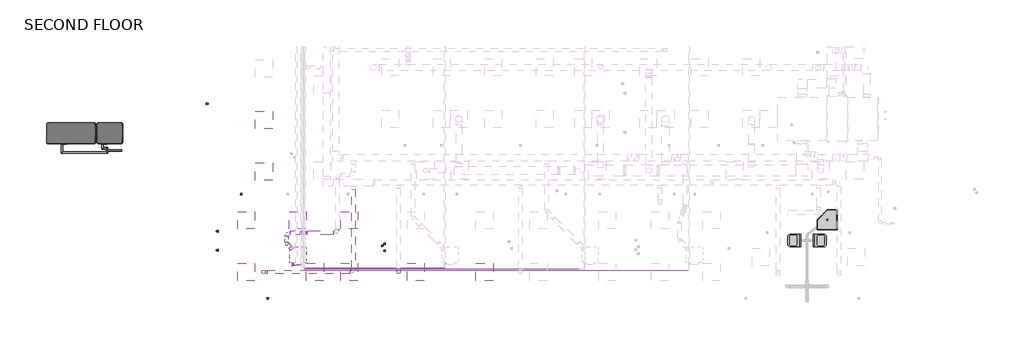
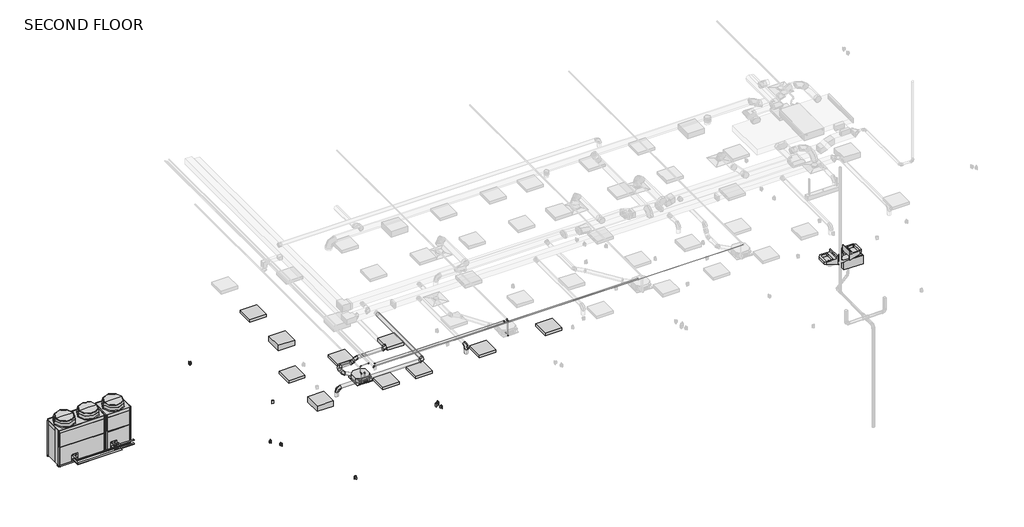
# One storey, part 1 of 12: 16 pipe fittings, 15 pipe segments, 10 light fixtures, 9 duct segments, 8 duct fittings, 8 proxies, 3 flow terminals, 2 electric appliances.
"""IFC4 building model written with IfcOpenShell, lengths in millimetres."""

from ifc_helpers import new_model, si_unit, point, frame, frame_2d, origin, place, context, project, spatial, circle_curve, trimmed, segment, composite_curve, outline, extrude, transform, mapped, element, save
from components import mechanical_equipment_2d84379e, mechanical_equipment_f1262ded, mechanical_equipment_7c6ddfd4, mechanical_equipment_79fc2163, duplex_receptacle_countertop_10251bba, round_elbow_1_d_c80420c1, round_elbow_1_d_e3dc691b, telephone_outlet_data_plain_18c24199, flow_terminal_3ae34a69, flow_terminal_3fd0b982, troffer_corner_insert_2x2_3_lamp_emergency_29e3a813, troffer_corner_insert_2x2_3lamp_e67c7f8f, elbow_generic_standard_c06ac706, elbow_generic_standard_a088f956

model = new_model("IFC4")

# Units and contexts
model_context = context("Model", 3, world=origin())
ifc_project = project(units=[si_unit("LENGTHUNIT", "METRE", prefix="MILLI")], contexts=[model_context])

# Site, building, storey
site = spatial("IfcSite", under=ifc_project)
building = spatial("IfcBuilding", under=site)
storey = spatial("IfcBuildingStorey", under=building, Name="SECOND FLOOR", Elevation=34544.0)

# Proxies
placement = place(None, origin())
mechanical_equipment_shape = mechanical_equipment_2d84379e(model_context)
element("IfcBuildingElementProxy", 1, Name="PLFY-P-NCMU-E_4-way_24x24 : PLFY-P12NCMU-E", ObjectType="PLFY-P-NCMU-E_4-way_24x24 : PLFY-P12NCMU-E", at=placement, inside=storey, context=model_context, shape_type="MappedRepresentation", body=[
    mapped(mechanical_equipment_shape, transform((-7369.1729607, -5508.0657082, 37287.2), x_axis=(-1.0, 0.0, 0.0), y_axis=(0.0, 1.0, 0.0), z_axis=(0.0, 0.0, -1.0))),
])
mechanical_equipment_2_shape = mechanical_equipment_f1262ded(model_context)
mechanical_equipment_3_shape = mechanical_equipment_7c6ddfd4(model_context)
mechanical_equipment_4_shape = mechanical_equipment_79fc2163(model_context)
element("IfcBuildingElementProxy", 2, Name="PURY-P168-288_YSJMU_Heat_Recovery_460V : PURY-P192YSJMU-A(-BS)_460V", ObjectType="PURY-P168-288_YSJMU_Heat_Recovery_460V : PURY-P192YSJMU-A(-BS)_460V", at=placement, inside=storey, context=model_context, shape_type="MappedRepresentation", body=[
    mapped(mechanical_equipment_2_shape, transform((-15542.2584607, -1258.9304995, 34544.0), x_axis=(1.0, 0.0, 0.0), y_axis=(0.0, 1.0, 0.0), z_axis=(0.0, 0.0, 1.0))),
    mapped(mechanical_equipment_3_shape, transform((-15542.2584607, -1258.9304995, 34544.0), x_axis=(1.0, 0.0, 0.0), y_axis=(0.0, 1.0, 0.0), z_axis=(0.0, 0.0, 1.0))),
    mapped(mechanical_equipment_4_shape, transform((-15542.2584607, -1258.9304995, 34544.0), x_axis=(1.0, 0.0, 0.0), y_axis=(0.0, 1.0, 0.0), z_axis=(0.0, 0.0, 1.0))),
])
duplex_receptacle_countertop_shape = duplex_receptacle_countertop_10251bba(model_context)
element("IfcBuildingElementProxy", 3, Name="Duplex Receptacle : Countertop", ObjectType="Duplex Receptacle : Countertop", at=placement, inside=storey, context=model_context, shape_type="MappedRepresentation", body=[
    mapped(duplex_receptacle_countertop_shape, transform((-9384.920368, -3437.5304995, 35763.2), x_axis=(1.0, 0.0, 0.0), y_axis=(0.0, 0.0, 1.0), z_axis=(0.0, -1.0, 0.0))),
])
element("IfcBuildingElementProxy", 4, Name="Duplex Receptacle : Exterior", ObjectType="Duplex Receptacle : Exterior", at=placement, inside=storey, context=model_context, shape_type="MappedRepresentation", body=[
    mapped(duplex_receptacle_countertop_shape, transform((-10616.2454607, -218.095498, 35763.2), x_axis=(0.0, -1.0, 0.0), y_axis=(0.0, 0.0, 1.0), z_axis=(-1.0, 0.0, 0.0))),
])
element("IfcBuildingElementProxy", 5, Name="Duplex Receptacle : Standard", ObjectType="Duplex Receptacle : Standard", at=placement, inside=storey, context=model_context, shape_type="MappedRepresentation", body=[
    mapped(duplex_receptacle_countertop_shape, transform((-10209.8454607, -4733.9575516, 35296.4), x_axis=(0.0, 1.0, 0.0), y_axis=(0.0, 0.0, 1.0), z_axis=(1.0, 0.0, 0.0))),
])
element("IfcBuildingElementProxy", 6, Name="Duplex Receptacle : Standard", ObjectType="Duplex Receptacle : Standard", at=placement, inside=storey, context=model_context, shape_type="MappedRepresentation", body=[
    mapped(duplex_receptacle_countertop_shape, transform((-4398.3829607, -5253.5079794, 35001.2), x_axis=(0.0, -1.0, 0.0), y_axis=(0.0, 0.0, 1.0), z_axis=(-1.0, 0.0, 0.0))),
])
element("IfcBuildingElementProxy", 7, Name="Duplex Receptacle : Standard", ObjectType="Duplex Receptacle : Standard", at=placement, inside=storey, context=model_context, shape_type="MappedRepresentation", body=[
    mapped(duplex_receptacle_countertop_shape, transform((-8437.8475796, -7095.1304995, 34696.4), x_axis=(-1.0, 0.0, 0.0), y_axis=(0.0, 0.0, 1.0), z_axis=(0.0, 1.0, 0.0))),
])
element("IfcBuildingElementProxy", 8, Name="Duplex Receptacle : Standard", ObjectType="Duplex Receptacle : Standard", at=placement, inside=storey, context=model_context, shape_type="MappedRepresentation", body=[
    mapped(duplex_receptacle_countertop_shape, transform((-4274.5579607, -5421.1008591, 35001.2), x_axis=(0.0, 1.0, 0.0), y_axis=(0.0, 0.0, 1.0), z_axis=(1.0, 0.0, 0.0))),
])

# Duct fittings
round_elbow_1_d_shape = round_elbow_1_d_c80420c1(model_context)
element("IfcDuctFitting", 9, ObjectType="Round Elbow : 1 D", at=placement, inside=storey, context=model_context, shape_type="MappedRepresentation", body=[
    mapped(round_elbow_1_d_shape, transform((-8593.9292107, -6180.7304995, 37693.6), x_axis=(0.0, 0.0, 1.0), y_axis=(1.0, 0.0, 0.0), z_axis=(0.0, 1.0, 0.0))),
])
element("IfcDuctFitting", 10, ObjectType="Round Elbow : 1 D", at=placement, inside=storey, context=model_context, shape_type="MappedRepresentation", body=[
    mapped(round_elbow_1_d_shape, transform((-5393.5292107, -6180.7304995, 37693.6), x_axis=(1.0, 0.0, 0.0), y_axis=(0.0, 1.0, 0.0), z_axis=(0.0, 0.0, 1.0))),
])
element("IfcDuctFitting", 11, ObjectType="Round Elbow : 1 D", at=placement, inside=storey, context=model_context, shape_type="MappedRepresentation", body=[
    mapped(round_elbow_1_d_shape, transform((-3798.8854607, -6180.7304995, 37693.6), x_axis=(0.0, 0.0, 1.0), y_axis=(0.0, 1.0, 0.0), z_axis=(-1.0, 0.0, 0.0))),
])
element("IfcDuctFitting", 12, ObjectType="Round Elbow : 1 D", at=placement, inside=storey, context=model_context, shape_type="MappedRepresentation", body=[
    mapped(round_elbow_1_d_shape, transform((-7773.6349734, -4791.2247368, 37381.259375), x_axis=(-1.0, 0.0, 0.0), y_axis=(0.0, -1.0, 0.0), z_axis=(0.0, 0.0, 1.0))),
])
element("IfcDuctFitting", 13, ObjectType="Round Elbow : 1 D", at=placement, inside=storey, context=model_context, shape_type="MappedRepresentation", body=[
    mapped(round_elbow_1_d_shape, transform((-5970.2349734, -4791.2247368, 37515.8), x_axis=(1.0, 0.0, 0.0), y_axis=(0.0, 1.0, 0.0), z_axis=(0.0, 0.0, 1.0))),
])
round_elbow_1_d_2_shape = round_elbow_1_d_e3dc691b(model_context)
element("IfcDuctFitting", 14, ObjectType="Round Elbow : 1 D", at=placement, inside=storey, context=model_context, shape_type="MappedRepresentation", body=[
    mapped(round_elbow_1_d_2_shape, transform((-7773.6349734, -5172.2247368, 37381.2593782), x_axis=(0.0, -1.0, 0.0), y_axis=(0.9999999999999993, 0.0, 3.563833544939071e-08), z_axis=(-3.563833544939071e-08, 0.0, 0.9999999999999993))),
])
element("IfcDuctFitting", 15, ObjectType="Round Elbow : 1 D", at=placement, inside=storey, context=model_context, shape_type="MappedRepresentation", body=[
    mapped(round_elbow_1_d_2_shape, transform((-7236.4646609, -4791.2247368, 37381.259375), x_axis=(1.0, 0.0, 0.0), y_axis=(0.0, 0.0, 1.0), z_axis=(0.0, -1.0, 0.0))),
])
element("IfcDuctFitting", 16, ObjectType="Round Elbow : 1 D", at=placement, inside=storey, context=model_context, shape_type="MappedRepresentation", body=[
    mapped(round_elbow_1_d_2_shape, transform((-7101.9240359, -4791.2247368, 37515.8), x_axis=(0.7071067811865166, 0.0, 0.7071067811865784), y_axis=(0.7071067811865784, 0.0, -0.7071067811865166), z_axis=(0.0, 1.0, 0.0))),
])

# Duct segments
element("IfcDuctSegment", 17, ObjectType="Taps / Short Radius", at=placement, inside=storey, context=model_context, shape_type="SweptSolid", body=[
    extrude(outline(composite_curve([segment(trimmed(circle_curve(frame_2d((-6180.7304995, 37693.6)), 63.5), [point((-6244.2304995, 37693.6))], [point((-6180.7304995, 37757.1))], False, "CARTESIAN"), True, "CONTINUOUS"), segment(trimmed(circle_curve(frame_2d((-6180.7304995, 37693.6)), 63.5), [point((-6180.7304995, 37757.1))], [point((-6117.2304995, 37693.6))], False, "CARTESIAN"), True, "CONTINUOUS"), segment(trimmed(circle_curve(frame_2d((-6180.7304995, 37693.6)), 63.5), [point((-6117.2304995, 37693.6))], [point((-6180.7304995, 37630.1))], False, "CARTESIAN"), True, "CONTINUOUS"), segment(trimmed(circle_curve(frame_2d((-6180.7304995, 37693.6)), 63.5), [point((-6180.7304995, 37630.1))], [point((-6244.2304995, 37693.6))], False, "CARTESIAN"), True, "CONTINUOUS")], self_intersect=False)), frame((-8466.9292107, 0.0, 0.0), z_axis=(1.0, 0.0, 0.0), x_axis=(0.0, 1.0, 0.0)), (0.0, 0.0, 1.0), 2946.4),
])
element("IfcDuctSegment", 18, ObjectType="Taps / Short Radius", at=placement, inside=storey, context=model_context, shape_type="SweptSolid", body=[
    extrude(outline(composite_curve([segment(trimmed(circle_curve(frame_2d((-8593.9292107, -6180.7304995)), 63.5), [point((-8593.9292107, -6244.2304995))], [point((-8657.4292107, -6180.7304995))], False, "CARTESIAN"), True, "CONTINUOUS"), segment(trimmed(circle_curve(frame_2d((-8593.9292107, -6180.7304995)), 63.5), [point((-8657.4292107, -6180.7304995))], [point((-8593.9292107, -6117.2304995))], False, "CARTESIAN"), True, "CONTINUOUS"), segment(trimmed(circle_curve(frame_2d((-8593.9292107, -6180.7304995)), 63.5), [point((-8593.9292107, -6117.2304995))], [point((-8530.4292107, -6180.7304995))], False, "CARTESIAN"), True, "CONTINUOUS"), segment(trimmed(circle_curve(frame_2d((-8593.9292107, -6180.7304995)), 63.5), [point((-8530.4292107, -6180.7304995))], [point((-8593.9292107, -6244.2304995))], False, "CARTESIAN"), True, "CONTINUOUS")], self_intersect=False)), frame((0.0, 0.0, 37388.8), z_axis=(0.0, 0.0, 1.0), x_axis=(1.0, 0.0, 0.0)), (0.0, 0.0, 1.0), 177.8),
])
element("IfcDuctSegment", 19, ObjectType="Taps / Short Radius", at=placement, inside=storey, context=model_context, shape_type="SweptSolid", body=[
    extrude(outline(composite_curve([segment(trimmed(circle_curve(frame_2d((37693.6, -5393.5292107)), 63.5), [point((37693.6, -5457.0292107))], [point((37630.1, -5393.5292107))], False, "CARTESIAN"), True, "CONTINUOUS"), segment(trimmed(circle_curve(frame_2d((37693.6, -5393.5292107)), 63.5), [point((37630.1, -5393.5292107))], [point((37693.6, -5330.0292107))], False, "CARTESIAN"), True, "CONTINUOUS"), segment(trimmed(circle_curve(frame_2d((37693.6, -5393.5292107)), 63.5), [point((37693.6, -5330.0292107))], [point((37757.1, -5393.5292107))], False, "CARTESIAN"), True, "CONTINUOUS"), segment(trimmed(circle_curve(frame_2d((37693.6, -5393.5292107)), 63.5), [point((37757.1, -5393.5292107))], [point((37693.6, -5457.0292107))], False, "CARTESIAN"), True, "CONTINUOUS")], self_intersect=False)), frame((0.0, -6053.7304995, 0.0), z_axis=(0.0, 1.0, 0.0), x_axis=(0.0, 0.0, 1.0)), (0.0, 0.0, 1.0), 2814.8598327),
])
element("IfcDuctSegment", 20, ObjectType="Taps / Short Radius", at=placement, inside=storey, context=model_context, shape_type="SweptSolid", body=[
    extrude(outline(composite_curve([segment(trimmed(circle_curve(frame_2d((-3798.8854607, -6180.7304995)), 63.5), [point((-3735.3854607, -6180.7304995))], [point((-3798.8854607, -6244.2304995))], False, "CARTESIAN"), True, "CONTINUOUS"), segment(trimmed(circle_curve(frame_2d((-3798.8854607, -6180.7304995)), 63.5), [point((-3798.8854607, -6244.2304995))], [point((-3862.3854607, -6180.7304995))], False, "CARTESIAN"), True, "CONTINUOUS"), segment(trimmed(circle_curve(frame_2d((-3798.8854607, -6180.7304995)), 63.5), [point((-3862.3854607, -6180.7304995))], [point((-3798.8854607, -6117.2304995))], False, "CARTESIAN"), True, "CONTINUOUS"), segment(trimmed(circle_curve(frame_2d((-3798.8854607, -6180.7304995)), 63.5), [point((-3798.8854607, -6117.2304995))], [point((-3735.3854607, -6180.7304995))], False, "CARTESIAN"), True, "CONTINUOUS")], self_intersect=False)), frame((0.0, 0.0, 37388.8), z_axis=(0.0, 0.0, 1.0), x_axis=(1.0, 0.0, 0.0)), (0.0, 0.0, 1.0), 177.8),
])
element("IfcDuctSegment", 21, ObjectType="Taps / Short Radius", at=placement, inside=storey, context=model_context, shape_type="SweptSolid", body=[
    extrude(outline(composite_curve([segment(trimmed(circle_curve(frame_2d((0.0, 63.5)), 63.5), [point((63.5, 63.5))], [point((0.0, 0.0))], False, "CARTESIAN"), True, "CONTINUOUS"), segment(trimmed(circle_curve(frame_2d((0.0, 63.5)), 63.5), [point((0.0, 0.0))], [point((-63.5, 63.5))], False, "CARTESIAN"), True, "CONTINUOUS"), segment(trimmed(circle_curve(frame_2d((0.0, 63.5)), 63.5), [point((-63.5, 63.5))], [point((0.0, 127.0))], False, "CARTESIAN"), True, "CONTINUOUS"), segment(trimmed(circle_curve(frame_2d((0.0, 63.5)), 63.5), [point((0.0, 127.0))], [point((63.5, 63.5))], False, "CARTESIAN"), True, "CONTINUOUS")], self_intersect=False)), frame((-7576.0693388, -5369.7903714, 37444.7593852), z_axis=(-0.7071067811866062, 0.707106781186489, 0.0), x_axis=(0.707106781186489, 0.7071067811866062, 0.0)), (0.0, 0.0, 1.0), 226.7948776),
])
element("IfcDuctSegment", 22, ObjectType="Taps / Short Radius", at=placement, inside=storey, context=model_context, shape_type="SweptSolid", body=[
    extrude(outline(composite_curve([segment(trimmed(circle_curve(frame_2d((37381.2593782, -7773.6349734)), 63.5), [point((37381.2593782, -7710.1349734))], [point((37444.7593782, -7773.6349734))], False, "CARTESIAN"), True, "CONTINUOUS"), segment(trimmed(circle_curve(frame_2d((37381.2593782, -7773.6349734)), 63.5), [point((37444.7593782, -7773.6349734))], [point((37381.2593782, -7837.1349734))], False, "CARTESIAN"), True, "CONTINUOUS"), segment(trimmed(circle_curve(frame_2d((37381.2593782, -7773.6349734)), 63.5), [point((37381.2593782, -7837.1349734))], [point((37317.7593782, -7773.6349734))], False, "CARTESIAN"), True, "CONTINUOUS"), segment(trimmed(circle_curve(frame_2d((37381.2593782, -7773.6349734)), 63.5), [point((37317.7593782, -7773.6349734))], [point((37381.2593782, -7710.1349734))], False, "CARTESIAN"), True, "CONTINUOUS")], self_intersect=False)), frame((0.0, -5119.6196143, 0.0), z_axis=(0.0, 1.0, 0.0), x_axis=(0.0, 0.0, 1.0)), (0.0, 0.0, 1.0), 201.3948776),
])
element("IfcDuctSegment", 23, ObjectType="Taps / Short Radius", at=placement, inside=storey, context=model_context, shape_type="SweptSolid", body=[
    extrude(outline(composite_curve([segment(trimmed(circle_curve(frame_2d((-4791.2247368, 37381.259375)), 63.5), [point((-4854.7247368, 37381.259375))], [point((-4791.2247368, 37444.759375))], False, "CARTESIAN"), True, "CONTINUOUS"), segment(trimmed(circle_curve(frame_2d((-4791.2247368, 37381.259375)), 63.5), [point((-4791.2247368, 37444.759375))], [point((-4727.7247368, 37381.259375))], False, "CARTESIAN"), True, "CONTINUOUS"), segment(trimmed(circle_curve(frame_2d((-4791.2247368, 37381.259375)), 63.5), [point((-4727.7247368, 37381.259375))], [point((-4791.2247368, 37317.759375))], False, "CARTESIAN"), True, "CONTINUOUS"), segment(trimmed(circle_curve(frame_2d((-4791.2247368, 37381.259375)), 63.5), [point((-4791.2247368, 37317.759375))], [point((-4854.7247368, 37381.259375))], False, "CARTESIAN"), True, "CONTINUOUS")], self_intersect=False)), frame((-7646.6349734, 0.0, 0.0), z_axis=(1.0, 0.0, 0.0), x_axis=(0.0, 1.0, 0.0)), (0.0, 0.0, 1.0), 357.5651901),
])
element("IfcDuctSegment", 24, ObjectType="Taps / Short Radius", at=placement, inside=storey, context=model_context, shape_type="SweptSolid", body=[
    extrude(outline(composite_curve([segment(trimmed(circle_curve(frame_2d((-4791.2247368, 37515.8)), 63.5), [point((-4854.7247368, 37515.8))], [point((-4791.2247368, 37579.3))], False, "CARTESIAN"), True, "CONTINUOUS"), segment(trimmed(circle_curve(frame_2d((-4791.2247368, 37515.8)), 63.5), [point((-4791.2247368, 37579.3))], [point((-4727.7247368, 37515.8))], False, "CARTESIAN"), True, "CONTINUOUS"), segment(trimmed(circle_curve(frame_2d((-4791.2247368, 37515.8)), 63.5), [point((-4727.7247368, 37515.8))], [point((-4791.2247368, 37452.3))], False, "CARTESIAN"), True, "CONTINUOUS"), segment(trimmed(circle_curve(frame_2d((-4791.2247368, 37515.8)), 63.5), [point((-4791.2247368, 37452.3))], [point((-4854.7247368, 37515.8))], False, "CARTESIAN"), True, "CONTINUOUS")], self_intersect=False)), frame((-7049.3189135, 0.0, 0.0), z_axis=(1.0, 0.0, 0.0), x_axis=(0.0, 1.0, 0.0)), (0.0, 0.0, 1.0), 952.0839401),
])
element("IfcDuctSegment", 25, ObjectType="Taps / Short Radius", at=placement, inside=storey, context=model_context, shape_type="SweptSolid", body=[
    extrude(outline(composite_curve([segment(trimmed(circle_curve(frame_2d((0.0, 63.5)), 63.5), [point((0.0, 0.0))], [point((-63.5, 63.5))], False, "CARTESIAN"), True, "CONTINUOUS"), segment(trimmed(circle_curve(frame_2d((0.0, 63.5)), 63.5), [point((-63.5, 63.5))], [point((0.0, 127.0))], False, "CARTESIAN"), True, "CONTINUOUS"), segment(trimmed(circle_curve(frame_2d((0.0, 63.5)), 63.5), [point((0.0, 127.0))], [point((63.5, 63.5))], False, "CARTESIAN"), True, "CONTINUOUS"), segment(trimmed(circle_curve(frame_2d((0.0, 63.5)), 63.5), [point((63.5, 63.5))], [point((0.0, 0.0))], False, "CARTESIAN"), True, "CONTINUOUS")], self_intersect=False)), frame((-7199.2672221, -4854.7247368, 37418.4568138), z_axis=(0.7071067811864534, 0.0, 0.7071067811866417), x_axis=(0.7071067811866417, 0.0, -0.7071067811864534)), (0.0, 0.0, 1.0), 85.0589317),
])

# Electric appliances
telephone_outlet_data_plain_shape = telephone_outlet_data_plain_18c24199(model_context)
element("IfcElectricAppliance", 26, ObjectType="Telephone Outlet - Data : Plain", at=placement, inside=storey, context=model_context, shape_type="MappedRepresentation", body=[
    mapped(telephone_outlet_data_plain_shape, transform((-10209.8454607, -4531.9705124, 34743.95), x_axis=(0.0, 1.0, 0.0), y_axis=(0.0, 0.0, 1.0), z_axis=(1.0, 0.0, 0.0))),
])
element("IfcElectricAppliance", 27, ObjectType="Telephone Outlet - Data : Plain", at=placement, inside=storey, context=model_context, shape_type="MappedRepresentation", body=[
    mapped(telephone_outlet_data_plain_shape, transform((-4274.5579607, -4304.221706, 34143.95), x_axis=(0.0, 1.0, 0.0), y_axis=(0.0, 0.0, 1.0), z_axis=(1.0, 0.0, 0.0))),
])

# Flow terminals
flow_terminal_shape = flow_terminal_3ae34a69(model_context)
element("IfcFlowTerminal", 28, ObjectType="Lavatory_Commercial-Willoughby-ES-1015-HC : Lavatory_Commercial-Willoughby-ES-1015-HC", at=placement, inside=storey, context=model_context, shape_type="MappedRepresentation", body=[
    mapped(flow_terminal_shape, transform((10465.7545393, -5063.1304995, 35458.4), x_axis=(0.0, -1.0, 0.0), y_axis=(0.0, 0.0, 1.0), z_axis=(-1.0, 0.0, 0.0))),
])
element("IfcFlowTerminal", 29, ObjectType="Lavatory_Commercial-Willoughby-ES-1015-HC : Lavatory_Commercial-Willoughby-ES-1015-HC", at=placement, inside=storey, context=model_context, shape_type="MappedRepresentation", body=[
    mapped(flow_terminal_shape, transform((10919.7299299, -5063.1304995, 35458.4), x_axis=(0.0, 1.0, 0.0), y_axis=(0.0, 0.0, 1.0), z_axis=(1.0, 0.0, 0.0))),
])
flow_terminal_2_shape = flow_terminal_3fd0b982(model_context)
element("IfcFlowTerminal", 30, ObjectType="Sink - Mop : 28\"x28\"", at=placement, inside=storey, context=model_context, shape_type="MappedRepresentation", body=[
    mapped(flow_terminal_2_shape, transform((11761.1049299, -4685.3054995, 34544.0), x_axis=(-1.0, 0.0, 0.0), y_axis=(0.0, -1.0, 0.0), z_axis=(0.0, 0.0, 1.0))),
])

# Light fixtures
troffer_corner_insert_2x2_3_lamp_emergency_shape = troffer_corner_insert_2x2_3_lamp_emergency_29e3a813(model_context)
element("IfcLightFixture", 31, ObjectType="Troffer Corner Insert : 2x2 3 Lamp Emergency", at=placement, inside=storey, context=model_context, shape_type="MappedRepresentation", body=[
    mapped(troffer_corner_insert_2x2_3_lamp_emergency_shape, transform((-9203.5292107, -6180.7304995, 34848.8), x_axis=(1.0, 0.0, 0.0), y_axis=(0.0, 1.0, 0.0), z_axis=(0.0, 0.0, 1.0))),
])
element("IfcLightFixture", 32, ObjectType="Troffer Corner Insert : 2x2 3 Lamp Emergency", at=placement, inside=storey, context=model_context, shape_type="MappedRepresentation", body=[
    mapped(troffer_corner_insert_2x2_3_lamp_emergency_shape, transform((-8574.7204607, -2616.7929995, 34848.8), x_axis=(1.0, 0.0, 0.0), y_axis=(0.0, 1.0, 0.0), z_axis=(0.0, 0.0, 1.0))),
])
troffer_corner_insert_2x2_3lamp_shape = troffer_corner_insert_2x2_3lamp_e67c7f8f(model_context)
element("IfcLightFixture", 33, ObjectType="Troffer Corner Insert : 2x2 3Lamp", at=placement, inside=storey, context=model_context, shape_type="MappedRepresentation", body=[
    mapped(troffer_corner_insert_2x2_3lamp_shape, transform((-3189.2854607, -6180.7304995, 34848.8), x_axis=(1.0, 0.0, 0.0), y_axis=(0.0, 1.0, 0.0), z_axis=(0.0, 0.0, 1.0))),
])
element("IfcLightFixture", 34, ObjectType="Troffer Corner Insert : 2x2 3Lamp", at=placement, inside=storey, context=model_context, shape_type="MappedRepresentation", body=[
    mapped(troffer_corner_insert_2x2_3lamp_shape, transform((-750.8854607, -6180.7304995, 34848.8), x_axis=(1.0, 0.0, 0.0), y_axis=(0.0, 1.0, 0.0), z_axis=(0.0, 0.0, 1.0))),
])
element("IfcLightFixture", 35, ObjectType="Troffer Corner Insert : 2x2 3Lamp", at=placement, inside=storey, context=model_context, shape_type="MappedRepresentation", body=[
    mapped(troffer_corner_insert_2x2_3lamp_shape, transform((-9203.5292107, -4351.9304995, 34848.8), x_axis=(1.0, 0.0, 0.0), y_axis=(0.0, 1.0, 0.0), z_axis=(0.0, 0.0, 1.0))),
])
element("IfcLightFixture", 36, ObjectType="Troffer Corner Insert : 2x2 3Lamp", at=placement, inside=storey, context=model_context, shape_type="MappedRepresentation", body=[
    mapped(troffer_corner_insert_2x2_3lamp_shape, transform((-6765.1292107, -6180.7304995, 34848.8), x_axis=(1.0, 0.0, 0.0), y_axis=(0.0, 1.0, 0.0), z_axis=(0.0, 0.0, 1.0))),
])
element("IfcLightFixture", 37, ObjectType="Troffer Corner Insert : 2x2 3Lamp", at=placement, inside=storey, context=model_context, shape_type="MappedRepresentation", body=[
    mapped(troffer_corner_insert_2x2_3lamp_shape, transform((-7374.7292107, -4351.9304995, 34848.8), x_axis=(1.0, 0.0, 0.0), y_axis=(0.0, 1.0, 0.0), z_axis=(0.0, 0.0, 1.0))),
])
element("IfcLightFixture", 38, ObjectType="Troffer Corner Insert : 2x2 3Lamp", at=placement, inside=storey, context=model_context, shape_type="MappedRepresentation", body=[
    mapped(troffer_corner_insert_2x2_3lamp_shape, transform((-5545.9292107, -6180.7304995, 34848.8), x_axis=(1.0, 0.0, 0.0), y_axis=(0.0, 1.0, 0.0), z_axis=(0.0, 0.0, 1.0))),
])
element("IfcLightFixture", 39, ObjectType="Troffer Corner Insert : 2x2 3Lamp", at=placement, inside=storey, context=model_context, shape_type="MappedRepresentation", body=[
    mapped(troffer_corner_insert_2x2_3lamp_shape, transform((-5545.9292107, -4351.9304995, 34848.8), x_axis=(1.0, 0.0, 0.0), y_axis=(0.0, 1.0, 0.0), z_axis=(0.0, 0.0, 1.0))),
])
element("IfcLightFixture", 40, ObjectType="Troffer Corner Insert : 2x2 3Lamp", at=placement, inside=storey, context=model_context, shape_type="MappedRepresentation", body=[
    mapped(troffer_corner_insert_2x2_3lamp_shape, transform((-8574.7204607, -787.9929995, 34848.8), x_axis=(1.0, 0.0, 0.0), y_axis=(0.0, 1.0, 0.0), z_axis=(0.0, 0.0, 1.0))),
])

# Pipe fittings
elbow_generic_standard_shape = elbow_generic_standard_c06ac706(model_context)
element("IfcPipeFitting", 41, ObjectType="Elbow - Generic : Standard", at=placement, inside=storey, context=model_context, shape_type="MappedRepresentation", body=[
    mapped(elbow_generic_standard_shape, transform((-2162.9667107, -5960.0791744, 37998.4), x_axis=(0.0, 0.0, 1.0), y_axis=(0.0, 1.0, 0.0), z_axis=(-1.0, 0.0, 0.0))),
])
element("IfcPipeFitting", 42, ObjectType="Elbow - Generic : Standard", at=placement, inside=storey, context=model_context, shape_type="MappedRepresentation", body=[
    mapped(elbow_generic_standard_shape, transform((-7430.4504607, -5943.4892377, 37744.4), x_axis=(0.0, -1.0, 0.0), y_axis=(0.0, 0.0, -1.0), z_axis=(1.0, 0.0, 0.0))),
])
element("IfcPipeFitting", 43, ObjectType="Elbow - Generic : Standard", at=placement, inside=storey, context=model_context, shape_type="MappedRepresentation", body=[
    mapped(elbow_generic_standard_shape, transform((-7430.4504607, -5943.4892377, 37437.2187602), x_axis=(0.0, 0.0, -1.0), y_axis=(-1.0, 0.0, 0.0), z_axis=(0.0, 1.0, 0.0))),
])
element("IfcPipeFitting", 44, ObjectType="Elbow - Generic : Standard", at=placement, inside=storey, context=model_context, shape_type="MappedRepresentation", body=[
    mapped(elbow_generic_standard_shape, transform((-7567.6104607, -5943.4892377, 37437.2187602), x_axis=(0.0, -1.0, 0.0), y_axis=(1.0, 0.0, 0.0), z_axis=(0.0, 0.0, 1.0))),
])
elbow_generic_standard_2_shape = elbow_generic_standard_a088f956(model_context)
element("IfcPipeFitting", 45, ObjectType="Elbow - Generic : Standard", at=placement, inside=storey, context=model_context, shape_type="MappedRepresentation", body=[
    mapped(elbow_generic_standard_2_shape, transform((-7570.7854607, -5931.4929995, 38049.2), x_axis=(0.0, 0.0, 1.0), y_axis=(1.0, 0.0, 0.0), z_axis=(0.0, 1.0, 0.0))),
])
element("IfcPipeFitting", 46, ObjectType="Elbow - Generic : Standard", at=placement, inside=storey, context=model_context, shape_type="MappedRepresentation", body=[
    mapped(elbow_generic_standard_2_shape, transform((-7265.9854607, -5931.4929995, 38049.2), x_axis=(1.0, 0.0, 0.0), y_axis=(0.0, 1.0, 0.0), z_axis=(0.0, 0.0, 1.0))),
])
element("IfcPipeFitting", 47, ObjectType="Elbow - Generic : Standard", at=placement, inside=storey, context=model_context, shape_type="MappedRepresentation", body=[
    mapped(elbow_generic_standard_2_shape, transform((-7215.1854607, -6134.6929995, 37998.4), x_axis=(0.0, -1.0, 0.0), y_axis=(1.0, 0.0, 0.0), z_axis=(0.0, 0.0, 1.0))),
])
element("IfcPipeFitting", 48, ObjectType="Elbow - Generic : Standard", at=placement, inside=storey, context=model_context, shape_type="MappedRepresentation", body=[
    mapped(elbow_generic_standard_2_shape, transform((-7164.3854607, -6083.8929995, 37998.4), x_axis=(0.0, -1.0, 0.0), y_axis=(1.0, 0.0, 0.0), z_axis=(0.0, 0.0, 1.0))),
])
element("IfcPipeFitting", 49, ObjectType="Elbow - Generic : Standard", at=placement, inside=storey, context=model_context, shape_type="MappedRepresentation", body=[
    mapped(elbow_generic_standard_2_shape, transform((-7113.5854607, -6033.0929995, 38049.2), x_axis=(0.0, -1.0, 0.0), y_axis=(1.0, 0.0, 0.0), z_axis=(0.0, 0.0, 1.0))),
])
element("IfcPipeFitting", 50, ObjectType="Elbow - Generic : Standard", at=placement, inside=storey, context=model_context, shape_type="MappedRepresentation", body=[
    mapped(elbow_generic_standard_2_shape, transform((-2312.9854607, -6033.0929995, 38049.2), x_axis=(1.0, 0.0, 0.0), y_axis=(0.0, 0.0, -1.0), z_axis=(0.0, 1.0, 0.0))),
])
element("IfcPipeFitting", 51, ObjectType="Elbow - Generic : Standard", at=placement, inside=storey, context=model_context, shape_type="MappedRepresentation", body=[
    mapped(elbow_generic_standard_2_shape, transform((-2312.9854607, -6033.0929995, 37995.2250102), x_axis=(0.0, 0.0, -1.0), y_axis=(1.0, 0.0, 0.0), z_axis=(0.0, -1.0, 0.0))),
])
element("IfcPipeFitting", 52, ObjectType="Elbow - Generic : Standard", at=placement, inside=storey, context=model_context, shape_type="MappedRepresentation", body=[
    mapped(elbow_generic_standard_2_shape, transform((-2166.1417107, -6033.0929995, 37995.2250102), x_axis=(1.0, 0.0, 0.0), y_axis=(0.0, 0.0, -1.0), z_axis=(0.0, 1.0, 0.0))),
])
element("IfcPipeFitting", 53, ObjectType="Elbow - Generic : Standard", at=placement, inside=storey, context=model_context, shape_type="MappedRepresentation", body=[
    mapped(elbow_generic_standard_2_shape, transform((-2166.1417107, -6033.0929995, 37407.8500102), x_axis=(0.0, -1.0, 0.0), y_axis=(0.0, 0.0, 1.0), z_axis=(-1.0, 0.0, 0.0))),
])
element("IfcPipeFitting", 54, ObjectType="Elbow - Generic : Standard", at=placement, inside=storey, context=model_context, shape_type="MappedRepresentation", body=[
    mapped(elbow_generic_standard_2_shape, transform((-7570.7854607, -5988.6429995, 37407.8500102), x_axis=(0.0, -1.0, 0.0), y_axis=(0.0, 0.0, 1.0), z_axis=(-1.0, 0.0, 0.0))),
])
element("IfcPipeFitting", 55, ObjectType="Elbow - Generic : Standard", at=placement, inside=storey, context=model_context, shape_type="MappedRepresentation", body=[
    mapped(elbow_generic_standard_2_shape, transform((-7570.7854607, -5988.6429995, 37788.8500102), x_axis=(0.0, 0.0, 1.0), y_axis=(0.0, 1.0, 0.0), z_axis=(-1.0, 0.0, 0.0))),
])
element("IfcPipeFitting", 56, ObjectType="Elbow - Generic : Standard", at=placement, inside=storey, context=model_context, shape_type="MappedRepresentation", body=[
    mapped(elbow_generic_standard_2_shape, transform((-7570.7854607, -5931.4929995, 37788.8500102), x_axis=(0.0, 1.0, 0.0), y_axis=(0.0, 0.0, 1.0), z_axis=(1.0, 0.0, 0.0))),
])

# Pipe segments
element("IfcPipeSegment", 57, ObjectType="Copper Tubing", at=placement, inside=storey, context=model_context, shape_type="SweptSolid", body=[
    extrude(outline(composite_curve([segment(trimmed(circle_curve(frame_2d((-5931.4929995, 38049.2)), 7.9375), [point((-5939.4304995, 38049.2))], [point((-5931.4929995, 38057.1375))], False, "CARTESIAN"), True, "CONTINUOUS"), segment(trimmed(circle_curve(frame_2d((-5931.4929995, 38049.2)), 7.9375), [point((-5931.4929995, 38057.1375))], [point((-5923.5554995, 38049.2))], False, "CARTESIAN"), True, "CONTINUOUS"), segment(trimmed(circle_curve(frame_2d((-5931.4929995, 38049.2)), 7.9375), [point((-5923.5554995, 38049.2))], [point((-5931.4929995, 38041.2625))], False, "CARTESIAN"), True, "CONTINUOUS"), segment(trimmed(circle_curve(frame_2d((-5931.4929995, 38049.2)), 7.9375), [point((-5931.4929995, 38041.2625))], [point((-5939.4304995, 38049.2))], False, "CARTESIAN"), True, "CONTINUOUS")], self_intersect=False)), frame((-7556.4979607, 0.0, 0.0), z_axis=(1.0, 0.0, 0.0), x_axis=(0.0, 1.0, 0.0)), (0.0, 0.0, 1.0), 276.225),
])
element("IfcPipeSegment", 58, ObjectType="Copper Tubing", at=placement, inside=storey, context=model_context, shape_type="SweptSolid", body=[
    extrude(outline(composite_curve([segment(trimmed(circle_curve(frame_2d((-6083.8929995, 37998.4)), 7.9375), [point((-6091.8304995, 37998.4))], [point((-6083.8929995, 38006.3375))], False, "CARTESIAN"), True, "CONTINUOUS"), segment(trimmed(circle_curve(frame_2d((-6083.8929995, 37998.4)), 7.9375), [point((-6083.8929995, 38006.3375))], [point((-6075.9554995, 37998.4))], False, "CARTESIAN"), True, "CONTINUOUS"), segment(trimmed(circle_curve(frame_2d((-6083.8929995, 37998.4)), 7.9375), [point((-6075.9554995, 37998.4))], [point((-6083.8929995, 37990.4625))], False, "CARTESIAN"), True, "CONTINUOUS"), segment(trimmed(circle_curve(frame_2d((-6083.8929995, 37998.4)), 7.9375), [point((-6083.8929995, 37990.4625))], [point((-6091.8304995, 37998.4))], False, "CARTESIAN"), True, "CONTINUOUS")], self_intersect=False)), frame((-7150.0979607, 0.0, 0.0), z_axis=(1.0, 0.0, 0.0), x_axis=(0.0, 1.0, 0.0)), (0.0, 0.0, 1.0), 9766.0434842),
])
element("IfcPipeSegment", 59, ObjectType="Copper Tubing", at=placement, inside=storey, context=model_context, shape_type="SweptSolid", body=[
    extrude(outline(composite_curve([segment(trimmed(circle_curve(frame_2d((-6033.0929995, 38049.2)), 7.9375), [point((-6041.0304995, 38049.2))], [point((-6033.0929995, 38057.1375))], False, "CARTESIAN"), True, "CONTINUOUS"), segment(trimmed(circle_curve(frame_2d((-6033.0929995, 38049.2)), 7.9375), [point((-6033.0929995, 38057.1375))], [point((-6025.1554995, 38049.2))], False, "CARTESIAN"), True, "CONTINUOUS"), segment(trimmed(circle_curve(frame_2d((-6033.0929995, 38049.2)), 7.9375), [point((-6025.1554995, 38049.2))], [point((-6033.0929995, 38041.2625))], False, "CARTESIAN"), True, "CONTINUOUS"), segment(trimmed(circle_curve(frame_2d((-6033.0929995, 38049.2)), 7.9375), [point((-6033.0929995, 38041.2625))], [point((-6041.0304995, 38049.2))], False, "CARTESIAN"), True, "CONTINUOUS")], self_intersect=False)), frame((-7099.2979607, 0.0, 0.0), z_axis=(1.0, 0.0, 0.0), x_axis=(0.0, 1.0, 0.0)), (0.0, 0.0, 1.0), 4772.025),
])
element("IfcPipeSegment", 60, ObjectType="Copper Tubing", at=placement, inside=storey, context=model_context, shape_type="SweptSolid", body=[
    extrude(outline(composite_curve([segment(trimmed(circle_curve(frame_2d((-6134.6929995, 37998.4)), 7.9375), [point((-6142.6304995, 37998.4))], [point((-6134.6929995, 38006.3375))], False, "CARTESIAN"), True, "CONTINUOUS"), segment(trimmed(circle_curve(frame_2d((-6134.6929995, 37998.4)), 7.9375), [point((-6134.6929995, 38006.3375))], [point((-6126.7554995, 37998.4))], False, "CARTESIAN"), True, "CONTINUOUS"), segment(trimmed(circle_curve(frame_2d((-6134.6929995, 37998.4)), 7.9375), [point((-6126.7554995, 37998.4))], [point((-6134.6929995, 37990.4625))], False, "CARTESIAN"), True, "CONTINUOUS"), segment(trimmed(circle_curve(frame_2d((-6134.6929995, 37998.4)), 7.9375), [point((-6134.6929995, 37990.4625))], [point((-6142.6304995, 37998.4))], False, "CARTESIAN"), True, "CONTINUOUS")], self_intersect=False)), frame((-7200.8979607, 0.0, 0.0), z_axis=(1.0, 0.0, 0.0), x_axis=(0.0, 1.0, 0.0)), (0.0, 0.0, 1.0), 13683.9325),
])
element("IfcPipeSegment", 61, ObjectType="Copper Tubing", at=placement, inside=storey, context=model_context, shape_type="SweptSolid", body=[
    extrude(outline(composite_curve([segment(trimmed(circle_curve(frame_2d((37437.2187602, -2162.9667107)), 14.2875), [point((37437.2187602, -2177.2542107))], [point((37422.9312602, -2162.9667107))], False, "CARTESIAN"), True, "CONTINUOUS"), segment(trimmed(circle_curve(frame_2d((37437.2187602, -2162.9667107)), 14.2875), [point((37422.9312602, -2162.9667107))], [point((37437.2187602, -2148.6792107))], False, "CARTESIAN"), True, "CONTINUOUS"), segment(trimmed(circle_curve(frame_2d((37437.2187602, -2162.9667107)), 14.2875), [point((37437.2187602, -2148.6792107))], [point((37451.5062602, -2162.9667107))], False, "CARTESIAN"), True, "CONTINUOUS"), segment(trimmed(circle_curve(frame_2d((37437.2187602, -2162.9667107)), 14.2875), [point((37451.5062602, -2162.9667107))], [point((37437.2187602, -2177.2542107))], False, "CARTESIAN"), True, "CONTINUOUS")], self_intersect=False)), frame((0.0, -5939.4416744, 0.0), z_axis=(0.0, 1.0, 0.0), x_axis=(0.0, 0.0, 1.0)), (0.0, 0.0, 1.0), 77.7986749),
])
element("IfcPipeSegment", 62, ObjectType="Copper Tubing", at=placement, inside=storey, context=model_context, shape_type="SweptSolid", body=[
    extrude(outline(composite_curve([segment(trimmed(circle_curve(frame_2d((-2166.1417107, -6033.0929995)), 7.9375), [point((-2158.2042107, -6033.0929995))], [point((-2166.1417107, -6041.0304995))], False, "CARTESIAN"), True, "CONTINUOUS"), segment(trimmed(circle_curve(frame_2d((-2166.1417107, -6033.0929995)), 7.9375), [point((-2166.1417107, -6041.0304995))], [point((-2174.0792107, -6033.0929995))], False, "CARTESIAN"), True, "CONTINUOUS"), segment(trimmed(circle_curve(frame_2d((-2166.1417107, -6033.0929995)), 7.9375), [point((-2174.0792107, -6033.0929995))], [point((-2166.1417107, -6025.1554995))], False, "CARTESIAN"), True, "CONTINUOUS"), segment(trimmed(circle_curve(frame_2d((-2166.1417107, -6033.0929995)), 7.9375), [point((-2166.1417107, -6025.1554995))], [point((-2158.2042107, -6033.0929995))], False, "CARTESIAN"), True, "CONTINUOUS")], self_intersect=False)), frame((0.0, 0.0, 37422.1375102), z_axis=(0.0, 0.0, 1.0), x_axis=(1.0, 0.0, 0.0)), (0.0, 0.0, 1.0), 558.7999999),
])
element("IfcPipeSegment", 63, ObjectType="Copper Tubing", at=placement, inside=storey, context=model_context, shape_type="SweptSolid", body=[
    extrude(outline(composite_curve([segment(trimmed(circle_curve(frame_2d((-2312.9854607, -6033.0929995)), 7.9375), [point((-2305.0479607, -6033.0929995))], [point((-2312.9854607, -6041.0304995))], False, "CARTESIAN"), True, "CONTINUOUS"), segment(trimmed(circle_curve(frame_2d((-2312.9854607, -6033.0929995)), 7.9375), [point((-2312.9854607, -6041.0304995))], [point((-2320.9229607, -6033.0929995))], False, "CARTESIAN"), True, "CONTINUOUS"), segment(trimmed(circle_curve(frame_2d((-2312.9854607, -6033.0929995)), 7.9375), [point((-2320.9229607, -6033.0929995))], [point((-2312.9854607, -6025.1554995))], False, "CARTESIAN"), True, "CONTINUOUS"), segment(trimmed(circle_curve(frame_2d((-2312.9854607, -6033.0929995)), 7.9375), [point((-2312.9854607, -6025.1554995))], [point((-2305.0479607, -6033.0929995))], False, "CARTESIAN"), True, "CONTINUOUS")], self_intersect=False)), frame((0.0, 0.0, 38009.5125102), z_axis=(0.0, 0.0, 1.0), x_axis=(1.0, 0.0, 0.0)), (0.0, 0.0, 1.0), 25.3999898),
])
element("IfcPipeSegment", 64, ObjectType="Copper Tubing", at=placement, inside=storey, context=model_context, shape_type="SweptSolid", body=[
    extrude(outline(composite_curve([segment(trimmed(circle_curve(frame_2d((-6033.0929995, 37995.2250102)), 7.9375), [point((-6041.0304995, 37995.2250102))], [point((-6033.0929995, 38003.1625102))], False, "CARTESIAN"), True, "CONTINUOUS"), segment(trimmed(circle_curve(frame_2d((-6033.0929995, 37995.2250102)), 7.9375), [point((-6033.0929995, 38003.1625102))], [point((-6025.1554995, 37995.2250102))], False, "CARTESIAN"), True, "CONTINUOUS"), segment(trimmed(circle_curve(frame_2d((-6033.0929995, 37995.2250102)), 7.9375), [point((-6025.1554995, 37995.2250102))], [point((-6033.0929995, 37987.2875102))], False, "CARTESIAN"), True, "CONTINUOUS"), segment(trimmed(circle_curve(frame_2d((-6033.0929995, 37995.2250102)), 7.9375), [point((-6033.0929995, 37987.2875102))], [point((-6041.0304995, 37995.2250102))], False, "CARTESIAN"), True, "CONTINUOUS")], self_intersect=False)), frame((-2298.6979607, 0.0, 0.0), z_axis=(1.0, 0.0, 0.0), x_axis=(0.0, 1.0, 0.0)), (0.0, 0.0, 1.0), 118.26875),
])
element("IfcPipeSegment", 65, ObjectType="Copper Tubing", at=placement, inside=storey, context=model_context, shape_type="SweptSolid", body=[
    extrude(outline(composite_curve([segment(trimmed(circle_curve(frame_2d((-7430.4504607, -5943.4892377)), 14.2875), [point((-7416.1629607, -5943.4892377))], [point((-7430.4504607, -5957.7767377))], False, "CARTESIAN"), True, "CONTINUOUS"), segment(trimmed(circle_curve(frame_2d((-7430.4504607, -5943.4892377)), 14.2875), [point((-7430.4504607, -5957.7767377))], [point((-7444.7379607, -5943.4892377))], False, "CARTESIAN"), True, "CONTINUOUS"), segment(trimmed(circle_curve(frame_2d((-7430.4504607, -5943.4892377)), 14.2875), [point((-7444.7379607, -5943.4892377))], [point((-7430.4504607, -5929.2017377))], False, "CARTESIAN"), True, "CONTINUOUS"), segment(trimmed(circle_curve(frame_2d((-7430.4504607, -5943.4892377)), 14.2875), [point((-7430.4504607, -5929.2017377))], [point((-7416.1629607, -5943.4892377))], False, "CARTESIAN"), True, "CONTINUOUS")], self_intersect=False)), frame((0.0, 0.0, 37457.8562602), z_axis=(0.0, 0.0, 1.0), x_axis=(1.0, 0.0, 0.0)), (0.0, 0.0, 1.0), 265.9062398),
])
element("IfcPipeSegment", 66, ObjectType="Copper Tubing", at=placement, inside=storey, context=model_context, shape_type="SweptSolid", body=[
    extrude(outline(composite_curve([segment(trimmed(circle_curve(frame_2d((37437.2187602, -7567.6104607)), 14.2875), [point((37437.2187602, -7553.3229607))], [point((37451.5062602, -7567.6104607))], False, "CARTESIAN"), True, "CONTINUOUS"), segment(trimmed(circle_curve(frame_2d((37437.2187602, -7567.6104607)), 14.2875), [point((37451.5062602, -7567.6104607))], [point((37437.2187602, -7581.8979607))], False, "CARTESIAN"), True, "CONTINUOUS"), segment(trimmed(circle_curve(frame_2d((37437.2187602, -7567.6104607)), 14.2875), [point((37437.2187602, -7581.8979607))], [point((37422.9312602, -7567.6104607))], False, "CARTESIAN"), True, "CONTINUOUS"), segment(trimmed(circle_curve(frame_2d((37437.2187602, -7567.6104607)), 14.2875), [point((37422.9312602, -7567.6104607))], [point((37437.2187602, -7553.3229607))], False, "CARTESIAN"), True, "CONTINUOUS")], self_intersect=False)), frame((0.0, -5922.8517377, 0.0), z_axis=(0.0, 1.0, 0.0), x_axis=(0.0, 0.0, 1.0)), (0.0, 0.0, 1.0), 61.2087383),
])
element("IfcPipeSegment", 67, ObjectType="Copper Tubing", at=placement, inside=storey, context=model_context, shape_type="SweptSolid", body=[
    extrude(outline(composite_curve([segment(trimmed(circle_curve(frame_2d((-5943.4892377, 37437.2187602)), 14.2875), [point((-5929.2017377, 37437.2187602))], [point((-5943.4892377, 37422.9312602))], False, "CARTESIAN"), True, "CONTINUOUS"), segment(trimmed(circle_curve(frame_2d((-5943.4892377, 37437.2187602)), 14.2875), [point((-5943.4892377, 37422.9312602))], [point((-5957.7767377, 37437.2187602))], False, "CARTESIAN"), True, "CONTINUOUS"), segment(trimmed(circle_curve(frame_2d((-5943.4892377, 37437.2187602)), 14.2875), [point((-5957.7767377, 37437.2187602))], [point((-5943.4892377, 37451.5062602))], False, "CARTESIAN"), True, "CONTINUOUS"), segment(trimmed(circle_curve(frame_2d((-5943.4892377, 37437.2187602)), 14.2875), [point((-5943.4892377, 37451.5062602))], [point((-5929.2017377, 37437.2187602))], False, "CARTESIAN"), True, "CONTINUOUS")], self_intersect=False)), frame((-7546.9729607, 0.0, 0.0), z_axis=(1.0, 0.0, 0.0), x_axis=(0.0, 1.0, 0.0)), (0.0, 0.0, 1.0), 95.885),
])
element("IfcPipeSegment", 68, ObjectType="Copper Tubing", at=placement, inside=storey, context=model_context, shape_type="SweptSolid", body=[
    extrude(outline(composite_curve([segment(trimmed(circle_curve(frame_2d((37407.8500102, -7570.7854607)), 7.9375), [point((37407.8500102, -7578.7229607))], [point((37399.9125102, -7570.7854607))], False, "CARTESIAN"), True, "CONTINUOUS"), segment(trimmed(circle_curve(frame_2d((37407.8500102, -7570.7854607)), 7.9375), [point((37399.9125102, -7570.7854607))], [point((37407.8500102, -7562.8479607))], False, "CARTESIAN"), True, "CONTINUOUS"), segment(trimmed(circle_curve(frame_2d((37407.8500102, -7570.7854607)), 7.9375), [point((37407.8500102, -7562.8479607))], [point((37415.7875102, -7570.7854607))], False, "CARTESIAN"), True, "CONTINUOUS"), segment(trimmed(circle_curve(frame_2d((37407.8500102, -7570.7854607)), 7.9375), [point((37415.7875102, -7570.7854607))], [point((37407.8500102, -7578.7229607))], False, "CARTESIAN"), True, "CONTINUOUS")], self_intersect=False)), frame((0.0, -5974.3554995, 0.0), z_axis=(0.0, 1.0, 0.0), x_axis=(0.0, 0.0, 1.0)), (0.0, 0.0, 1.0), 112.7125),
])
element("IfcPipeSegment", 69, ObjectType="Copper Tubing", at=placement, inside=storey, context=model_context, shape_type="SweptSolid", body=[
    extrude(outline(composite_curve([segment(trimmed(circle_curve(frame_2d((-7570.7854607, -5988.6429995)), 7.9375), [point((-7578.7229607, -5988.6429995))], [point((-7570.7854607, -5980.7054995))], False, "CARTESIAN"), True, "CONTINUOUS"), segment(trimmed(circle_curve(frame_2d((-7570.7854607, -5988.6429995)), 7.9375), [point((-7570.7854607, -5980.7054995))], [point((-7562.8479607, -5988.6429995))], False, "CARTESIAN"), True, "CONTINUOUS"), segment(trimmed(circle_curve(frame_2d((-7570.7854607, -5988.6429995)), 7.9375), [point((-7562.8479607, -5988.6429995))], [point((-7570.7854607, -5996.5804995))], False, "CARTESIAN"), True, "CONTINUOUS"), segment(trimmed(circle_curve(frame_2d((-7570.7854607, -5988.6429995)), 7.9375), [point((-7570.7854607, -5996.5804995))], [point((-7578.7229607, -5988.6429995))], False, "CARTESIAN"), True, "CONTINUOUS")], self_intersect=False)), frame((0.0, 0.0, 37422.1375102), z_axis=(0.0, 0.0, 1.0), x_axis=(1.0, 0.0, 0.0)), (0.0, 0.0, 1.0), 352.425),
])
element("IfcPipeSegment", 70, ObjectType="Copper Tubing", at=placement, inside=storey, context=model_context, shape_type="SweptSolid", body=[
    extrude(outline(composite_curve([segment(trimmed(circle_curve(frame_2d((37788.8500102, -7570.7854607)), 7.9375), [point((37788.8500102, -7562.8479607))], [point((37796.7875102, -7570.7854607))], False, "CARTESIAN"), True, "CONTINUOUS"), segment(trimmed(circle_curve(frame_2d((37788.8500102, -7570.7854607)), 7.9375), [point((37796.7875102, -7570.7854607))], [point((37788.8500102, -7578.7229607))], False, "CARTESIAN"), True, "CONTINUOUS"), segment(trimmed(circle_curve(frame_2d((37788.8500102, -7570.7854607)), 7.9375), [point((37788.8500102, -7578.7229607))], [point((37780.9125102, -7570.7854607))], False, "CARTESIAN"), True, "CONTINUOUS"), segment(trimmed(circle_curve(frame_2d((37788.8500102, -7570.7854607)), 7.9375), [point((37780.9125102, -7570.7854607))], [point((37788.8500102, -7562.8479607))], False, "CARTESIAN"), True, "CONTINUOUS")], self_intersect=False)), frame((0.0, -5974.3554995, 0.0), z_axis=(0.0, 1.0, 0.0), x_axis=(0.0, 0.0, 1.0)), (0.0, 0.0, 1.0), 28.575),
])
element("IfcPipeSegment", 71, ObjectType="Copper Tubing", at=placement, inside=storey, context=model_context, shape_type="SweptSolid", body=[
    extrude(outline(composite_curve([segment(trimmed(circle_curve(frame_2d((-7570.7854607, -5931.4929995)), 7.9375), [point((-7562.8479607, -5931.4929995))], [point((-7570.7854607, -5939.4304995))], False, "CARTESIAN"), True, "CONTINUOUS"), segment(trimmed(circle_curve(frame_2d((-7570.7854607, -5931.4929995)), 7.9375), [point((-7570.7854607, -5939.4304995))], [point((-7578.7229607, -5931.4929995))], False, "CARTESIAN"), True, "CONTINUOUS"), segment(trimmed(circle_curve(frame_2d((-7570.7854607, -5931.4929995)), 7.9375), [point((-7578.7229607, -5931.4929995))], [point((-7570.7854607, -5923.5554995))], False, "CARTESIAN"), True, "CONTINUOUS"), segment(trimmed(circle_curve(frame_2d((-7570.7854607, -5931.4929995)), 7.9375), [point((-7570.7854607, -5923.5554995))], [point((-7562.8479607, -5931.4929995))], False, "CARTESIAN"), True, "CONTINUOUS")], self_intersect=False)), frame((0.0, 0.0, 37803.1375102), z_axis=(0.0, 0.0, 1.0), x_axis=(1.0, 0.0, 0.0)), (0.0, 0.0, 1.0), 231.7749898),
])

save(model, "model.ifc")
